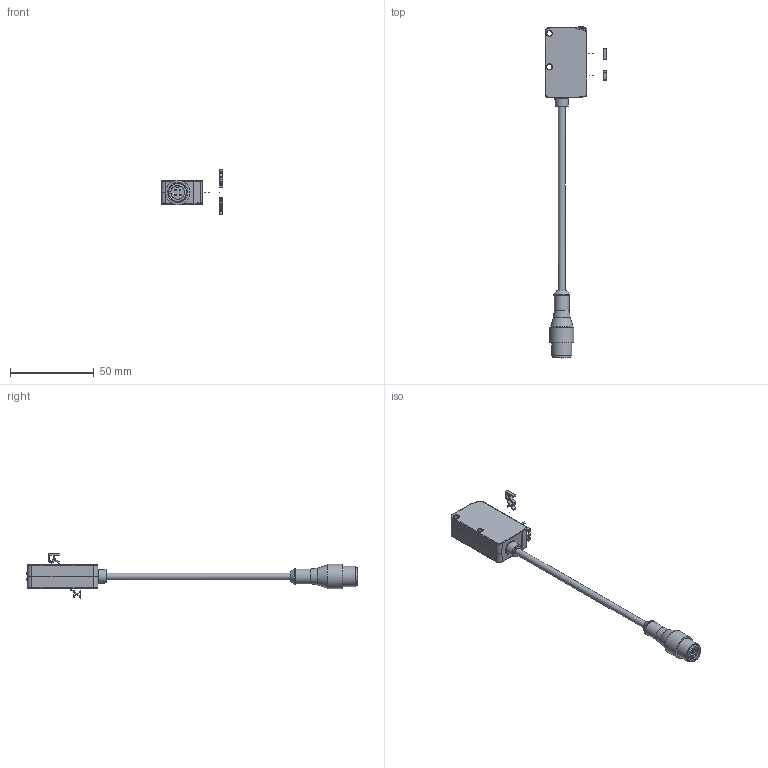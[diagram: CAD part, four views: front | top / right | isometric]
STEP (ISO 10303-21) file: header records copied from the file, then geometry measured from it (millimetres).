
FILE_DESCRIPTION(/* description */ (''),/* implementation_level */ '2;1');
FILE_NAME(/* name */ 'DSD-0191.stp',/* time_stamp */ '2020-09-21T09:10:33+02:00',/* author */ (''),/* organization */ (''),/* preprocessor_version */ 'ST-DEVELOPER v16.7',/* originating_system */ 'SIEMENS PLM Software NX 12.0',/* authorisation */ '');
FILE_SCHEMA (('AUTOMOTIVE_DESIGN { 1 0 10303 214 3 1 1 1 }'));
Length unit declared in the file: millimetre
Products named in the file (1): MBra1AA8D80Dzyh5
Bounding box: 37 x 198.3 x 26.68 mm (x, y, z)
Volume: 20882.7 mm3; surface area: 8654.7 mm2
Topology: 7 solids, 12 shells, 475 faces, 1184 edges, 741 vertices
Faces by surface type: bspline 473, cylinder 1, plane 1
Full cylindrical faces by diameter (mm): 10.917 x1
Entity records: 23708 total; most frequent: CARTESIAN_POINT 13621, ORIENTED_EDGE 2230, EDGE_CURVE 1120, VERTEX_POINT 740, B_SPLINE_CURVE_WITH_KNOTS 673, EDGE_LOOP 554, ADVANCED_FACE 474, PRESENTATION_STYLE_ASSIGNMENT 473
